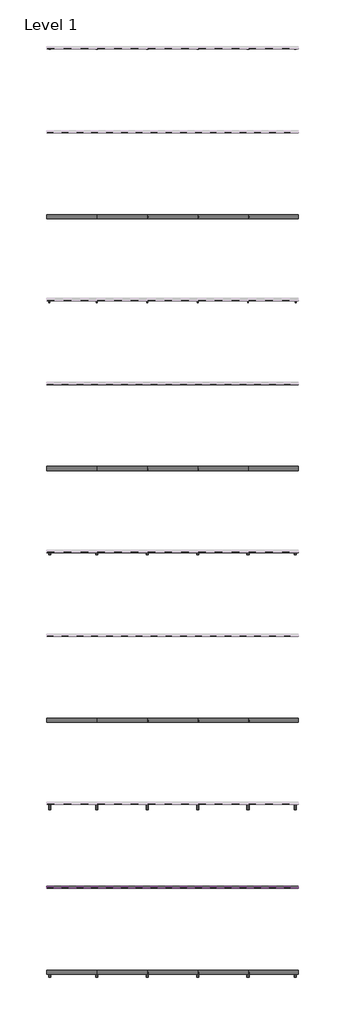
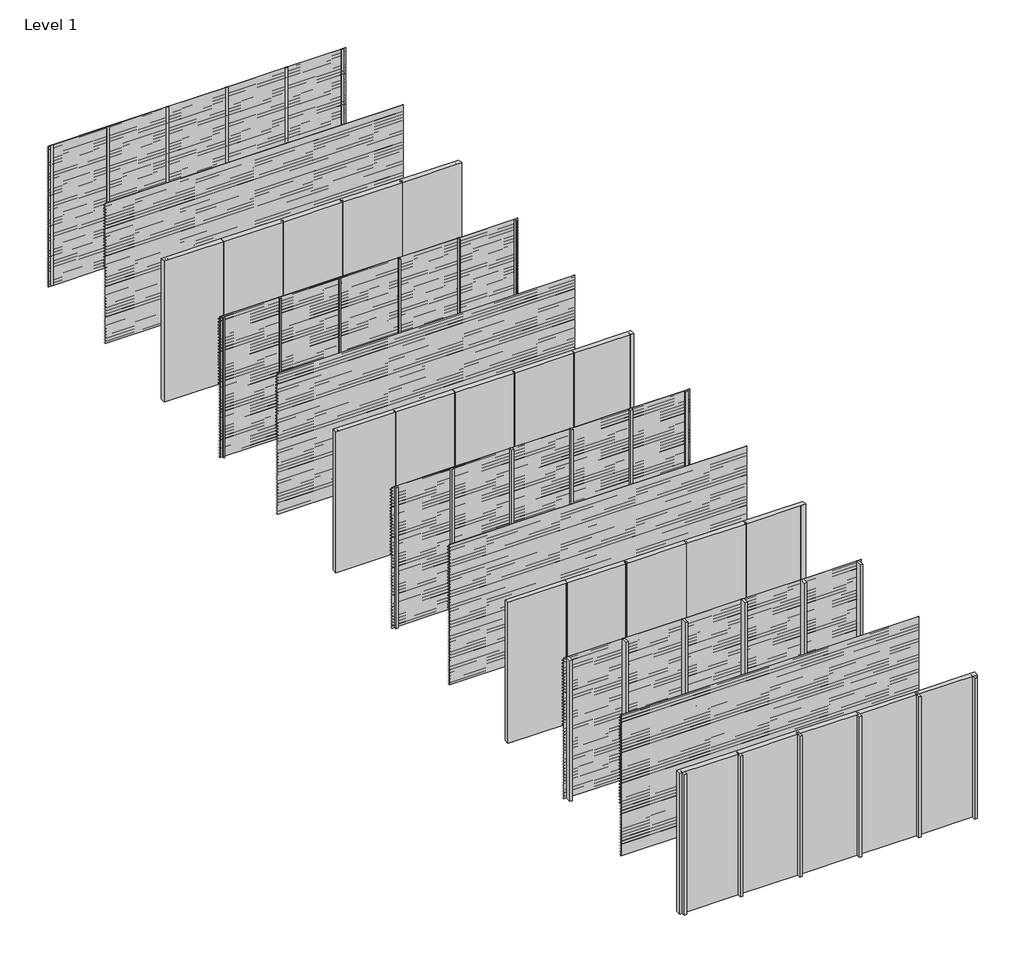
# One storey, part 1 of 12: 48 members, 44 plates, 29 proxies.
"""IFC4 building model written with IfcOpenShell, lengths in millimetres."""

from ifc_helpers import new_model, si_unit, frame, origin, origin_with_axes, place, context, project, spatial, polyline, outline, extrude, transform, mapped, element, save
from components import rectangular_mullion_bbbcbd30, rectangular_mullion_f8d4a220, rectangular_mullion_81aaf6fe, rectangular_mullion_6e08dc26, rectangular_mullion_75c52e10, rectangular_mullion_40295cf1, rectangular_mullion_7f158cb3, rectangular_mullion_66519e13, rectangular_mullion_5829b51c, rectangular_mullion_3b5b8a15, rectangular_mullion_81543344, rectangular_mullion_041a21c4, empty_system_panel_empty_50a928b3, empty_system_panel_empty_6b1ffbf5

model = new_model("IFC4")

# Units and contexts
model_context = context("Model", 3, world=origin())
ifc_project = project(units=[si_unit("LENGTHUNIT", "METRE", prefix="MILLI")], contexts=[model_context])

# Site, building, storey
site = spatial("IfcSite", under=ifc_project)
building = spatial("IfcBuilding", under=site)
storey = spatial("IfcBuildingStorey", under=building, Name="Level 1", Elevation=0.0)

# Proxies
placement = place(None, origin())
element("IfcBuildingElementProxy", 1, Name="Wall Sweeps", at=placement, inside=storey, context=model_context, shape_type="SweptSolid", body=[
    extrude(outline(polyline([(-19995.0, 2990.0), (-19995.0, 2980.7409854), (-19946.0, 2930.0), (-19946.0, 2914.0), (-19997.0, 2966.812046), (-19997.0, 2990.0), (-19995.0, 2990.0)])), frame((0.0, 0.0, 0.0), z_axis=(1.0, 0.0, 0.0), x_axis=(0.0, 1.0, 0.0)), (0.0, 0.0, 1.0), 6000.0),
])
element("IfcBuildingElementProxy", 2, Name="Wall Sweeps", at=placement, inside=storey, context=model_context, shape_type="SweptSolid", body=[
    extrude(outline(polyline([(-19995.0, 2925.0), (-19995.0, 2915.7409854), (-19946.0, 2865.0), (-19946.0, 2849.0), (-19997.0, 2901.812046), (-19997.0, 2925.0), (-19995.0, 2925.0)])), frame((0.0, 0.0, 0.0), z_axis=(1.0, 0.0, 0.0), x_axis=(0.0, 1.0, 0.0)), (0.0, 0.0, 1.0), 6000.0),
])
element("IfcBuildingElementProxy", 3, Name="Wall Sweeps", at=placement, inside=storey, context=model_context, shape_type="SweptSolid", body=[
    extrude(outline(polyline([(-19995.0, 2860.0), (-19995.0, 2850.7409854), (-19946.0, 2800.0), (-19946.0, 2784.0), (-19997.0, 2836.812046), (-19997.0, 2860.0), (-19995.0, 2860.0)])), frame((0.0, 0.0, 0.0), z_axis=(1.0, 0.0, 0.0), x_axis=(0.0, 1.0, 0.0)), (0.0, 0.0, 1.0), 6000.0),
])
element("IfcBuildingElementProxy", 4, Name="Wall Sweeps", at=placement, inside=storey, context=model_context, shape_type="SweptSolid", body=[
    extrude(outline(polyline([(-19995.0, 2795.0), (-19995.0, 2785.7409854), (-19946.0, 2735.0), (-19946.0, 2719.0), (-19997.0, 2771.812046), (-19997.0, 2795.0), (-19995.0, 2795.0)])), frame((0.0, 0.0, 0.0), z_axis=(1.0, 0.0, 0.0), x_axis=(0.0, 1.0, 0.0)), (0.0, 0.0, 1.0), 6000.0),
])
element("IfcBuildingElementProxy", 5, Name="Wall Sweeps", at=placement, inside=storey, context=model_context, shape_type="SweptSolid", body=[
    extrude(outline(polyline([(-19995.0, 2730.0), (-19995.0, 2720.7409854), (-19946.0, 2670.0), (-19946.0, 2654.0), (-19997.0, 2706.812046), (-19997.0, 2730.0), (-19995.0, 2730.0)])), frame((0.0, 0.0, 0.0), z_axis=(1.0, 0.0, 0.0), x_axis=(0.0, 1.0, 0.0)), (0.0, 0.0, 1.0), 6000.0),
])
element("IfcBuildingElementProxy", 6, Name="Wall Sweeps", at=placement, inside=storey, context=model_context, shape_type="SweptSolid", body=[
    extrude(outline(polyline([(-19995.0, 2665.0), (-19995.0, 2655.7409854), (-19946.0, 2605.0), (-19946.0, 2589.0), (-19997.0, 2641.812046), (-19997.0, 2665.0), (-19995.0, 2665.0)])), frame((0.0, 0.0, 0.0), z_axis=(1.0, 0.0, 0.0), x_axis=(0.0, 1.0, 0.0)), (0.0, 0.0, 1.0), 6000.0),
])
element("IfcBuildingElementProxy", 7, Name="Wall Sweeps", at=placement, inside=storey, context=model_context, shape_type="SweptSolid", body=[
    extrude(outline(polyline([(-19995.0, 2600.0), (-19995.0, 2590.7409854), (-19946.0, 2540.0), (-19946.0, 2524.0), (-19997.0, 2576.812046), (-19997.0, 2600.0), (-19995.0, 2600.0)])), frame((0.0, 0.0, 0.0), z_axis=(1.0, 0.0, 0.0), x_axis=(0.0, 1.0, 0.0)), (0.0, 0.0, 1.0), 6000.0),
])
element("IfcBuildingElementProxy", 8, Name="Wall Sweeps", at=placement, inside=storey, context=model_context, shape_type="SweptSolid", body=[
    extrude(outline(polyline([(-19995.0, 2535.0), (-19995.0, 2525.7409854), (-19946.0, 2475.0), (-19946.0, 2459.0), (-19997.0, 2511.812046), (-19997.0, 2535.0), (-19995.0, 2535.0)])), frame((0.0, 0.0, 0.0), z_axis=(1.0, 0.0, 0.0), x_axis=(0.0, 1.0, 0.0)), (0.0, 0.0, 1.0), 6000.0),
])
element("IfcBuildingElementProxy", 9, Name="Wall Sweeps", at=placement, inside=storey, context=model_context, shape_type="SweptSolid", body=[
    extrude(outline(polyline([(-19995.0, 2470.0), (-19995.0, 2460.7409854), (-19946.0, 2410.0), (-19946.0, 2394.0), (-19997.0, 2446.812046), (-19997.0, 2470.0), (-19995.0, 2470.0)])), frame((0.0, 0.0, 0.0), z_axis=(1.0, 0.0, 0.0), x_axis=(0.0, 1.0, 0.0)), (0.0, 0.0, 1.0), 6000.0),
])
element("IfcBuildingElementProxy", 10, Name="Wall Sweeps", at=placement, inside=storey, context=model_context, shape_type="SweptSolid", body=[
    extrude(outline(polyline([(-19995.0, 2405.0), (-19995.0, 2395.7409854), (-19946.0, 2345.0), (-19946.0, 2329.0), (-19997.0, 2381.812046), (-19997.0, 2405.0), (-19995.0, 2405.0)])), frame((0.0, 0.0, 0.0), z_axis=(1.0, 0.0, 0.0), x_axis=(0.0, 1.0, 0.0)), (0.0, 0.0, 1.0), 6000.0),
])
element("IfcBuildingElementProxy", 11, Name="Wall Sweeps", at=placement, inside=storey, context=model_context, shape_type="SweptSolid", body=[
    extrude(outline(polyline([(-19995.0, 2340.0), (-19995.0, 2330.7409854), (-19946.0, 2280.0), (-19946.0, 2264.0), (-19997.0, 2316.812046), (-19997.0, 2340.0), (-19995.0, 2340.0)])), frame((0.0, 0.0, 0.0), z_axis=(1.0, 0.0, 0.0), x_axis=(0.0, 1.0, 0.0)), (0.0, 0.0, 1.0), 6000.0),
])
element("IfcBuildingElementProxy", 12, Name="Wall Sweeps", at=placement, inside=storey, context=model_context, shape_type="SweptSolid", body=[
    extrude(outline(polyline([(-19995.0, 2275.0), (-19995.0, 2265.7409854), (-19946.0, 2215.0), (-19946.0, 2199.0), (-19997.0, 2251.812046), (-19997.0, 2275.0), (-19995.0, 2275.0)])), frame((0.0, 0.0, 0.0), z_axis=(1.0, 0.0, 0.0), x_axis=(0.0, 1.0, 0.0)), (0.0, 0.0, 1.0), 6000.0),
])
element("IfcBuildingElementProxy", 13, Name="Wall Sweeps", at=placement, inside=storey, context=model_context, shape_type="SweptSolid", body=[
    extrude(outline(polyline([(-19995.0, 2210.0), (-19995.0, 2200.7409854), (-19946.0, 2150.0), (-19946.0, 2134.0), (-19997.0, 2186.812046), (-19997.0, 2210.0), (-19995.0, 2210.0)])), frame((0.0, 0.0, 0.0), z_axis=(1.0, 0.0, 0.0), x_axis=(0.0, 1.0, 0.0)), (0.0, 0.0, 1.0), 6000.0),
])
element("IfcBuildingElementProxy", 14, Name="Wall Sweeps", at=placement, inside=storey, context=model_context, shape_type="SweptSolid", body=[
    extrude(outline(polyline([(-19995.0, 2145.0), (-19995.0, 2135.7409854), (-19946.0, 2085.0), (-19946.0, 2069.0), (-19997.0, 2121.812046), (-19997.0, 2145.0), (-19995.0, 2145.0)])), frame((0.0, 0.0, 0.0), z_axis=(1.0, 0.0, 0.0), x_axis=(0.0, 1.0, 0.0)), (0.0, 0.0, 1.0), 6000.0),
])
element("IfcBuildingElementProxy", 15, Name="Wall Sweeps", at=placement, inside=storey, context=model_context, shape_type="SweptSolid", body=[
    extrude(outline(polyline([(-19995.0, 2080.0), (-19995.0, 2070.7409854), (-19946.0, 2020.0), (-19946.0, 2004.0), (-19997.0, 2056.812046), (-19997.0, 2080.0), (-19995.0, 2080.0)])), frame((0.0, 0.0, 0.0), z_axis=(1.0, 0.0, 0.0), x_axis=(0.0, 1.0, 0.0)), (0.0, 0.0, 1.0), 6000.0),
])
element("IfcBuildingElementProxy", 16, Name="Wall Sweeps", at=placement, inside=storey, context=model_context, shape_type="SweptSolid", body=[
    extrude(outline(polyline([(-19995.0, 2015.0), (-19995.0, 2005.7409854), (-19946.0, 1955.0), (-19946.0, 1939.0), (-19997.0, 1991.812046), (-19997.0, 2015.0), (-19995.0, 2015.0)])), frame((0.0, 0.0, 0.0), z_axis=(1.0, 0.0, 0.0), x_axis=(0.0, 1.0, 0.0)), (0.0, 0.0, 1.0), 6000.0),
])
element("IfcBuildingElementProxy", 17, Name="Wall Sweeps", at=placement, inside=storey, context=model_context, shape_type="SweptSolid", body=[
    extrude(outline(polyline([(-19995.0, 1950.0), (-19995.0, 1940.7409854), (-19946.0, 1890.0), (-19946.0, 1874.0), (-19997.0, 1926.812046), (-19997.0, 1950.0), (-19995.0, 1950.0)])), frame((0.0, 0.0, 0.0), z_axis=(1.0, 0.0, 0.0), x_axis=(0.0, 1.0, 0.0)), (0.0, 0.0, 1.0), 6000.0),
])
element("IfcBuildingElementProxy", 18, Name="Wall Sweeps", at=placement, inside=storey, context=model_context, shape_type="SweptSolid", body=[
    extrude(outline(polyline([(-19995.0, 1885.0), (-19995.0, 1875.7409854), (-19946.0, 1825.0), (-19946.0, 1809.0), (-19997.0, 1861.812046), (-19997.0, 1885.0), (-19995.0, 1885.0)])), frame((0.0, 0.0, 0.0), z_axis=(1.0, 0.0, 0.0), x_axis=(0.0, 1.0, 0.0)), (0.0, 0.0, 1.0), 6000.0),
])
element("IfcBuildingElementProxy", 19, Name="Wall Sweeps", at=placement, inside=storey, context=model_context, shape_type="SweptSolid", body=[
    extrude(outline(polyline([(-19995.0, 1820.0), (-19995.0, 1810.7409854), (-19946.0, 1760.0), (-19946.0, 1744.0), (-19997.0, 1796.812046), (-19997.0, 1820.0), (-19995.0, 1820.0)])), frame((0.0, 0.0, 0.0), z_axis=(1.0, 0.0, 0.0), x_axis=(0.0, 1.0, 0.0)), (0.0, 0.0, 1.0), 6000.0),
])
element("IfcBuildingElementProxy", 20, Name="Wall Sweeps", at=placement, inside=storey, context=model_context, shape_type="SweptSolid", body=[
    extrude(outline(polyline([(-19995.0, 1755.0), (-19995.0, 1745.7409854), (-19946.0, 1695.0), (-19946.0, 1679.0), (-19997.0, 1731.812046), (-19997.0, 1755.0), (-19995.0, 1755.0)])), frame((0.0, 0.0, 0.0), z_axis=(1.0, 0.0, 0.0), x_axis=(0.0, 1.0, 0.0)), (0.0, 0.0, 1.0), 6000.0),
])
element("IfcBuildingElementProxy", 21, Name="Wall Sweeps", at=placement, inside=storey, context=model_context, shape_type="SweptSolid", body=[
    extrude(outline(polyline([(-19995.0, 1690.0), (-19995.0, 1680.7409854), (-19946.0, 1630.0), (-19946.0, 1614.0), (-19997.0, 1666.812046), (-19997.0, 1690.0), (-19995.0, 1690.0)])), frame((0.0, 0.0, 0.0), z_axis=(1.0, 0.0, 0.0), x_axis=(0.0, 1.0, 0.0)), (0.0, 0.0, 1.0), 6000.0),
])
element("IfcBuildingElementProxy", 22, Name="Wall Sweeps", at=placement, inside=storey, context=model_context, shape_type="SweptSolid", body=[
    extrude(outline(polyline([(-19995.0, 1625.0), (-19995.0, 1615.7409854), (-19946.0, 1565.0), (-19946.0, 1549.0), (-19997.0, 1601.812046), (-19997.0, 1625.0), (-19995.0, 1625.0)])), frame((0.0, 0.0, 0.0), z_axis=(1.0, 0.0, 0.0), x_axis=(0.0, 1.0, 0.0)), (0.0, 0.0, 1.0), 6000.0),
])
element("IfcBuildingElementProxy", 23, Name="Wall Sweeps", at=placement, inside=storey, context=model_context, shape_type="SweptSolid", body=[
    extrude(outline(polyline([(-19995.0, 1560.0), (-19995.0, 1550.7409854), (-19946.0, 1500.0), (-19946.0, 1484.0), (-19997.0, 1536.812046), (-19997.0, 1560.0), (-19995.0, 1560.0)])), frame((0.0, 0.0, 0.0), z_axis=(1.0, 0.0, 0.0), x_axis=(0.0, 1.0, 0.0)), (0.0, 0.0, 1.0), 6000.0),
])
element("IfcBuildingElementProxy", 24, Name="Wall Sweeps", at=placement, inside=storey, context=model_context, shape_type="SweptSolid", body=[
    extrude(outline(polyline([(-19995.0, 1495.0), (-19995.0, 1485.7409854), (-19946.0, 1435.0), (-19946.0, 1419.0), (-19997.0, 1471.812046), (-19997.0, 1495.0), (-19995.0, 1495.0)])), frame((0.0, 0.0, 0.0), z_axis=(1.0, 0.0, 0.0), x_axis=(0.0, 1.0, 0.0)), (0.0, 0.0, 1.0), 6000.0),
])
element("IfcBuildingElementProxy", 25, Name="Wall Sweeps", at=placement, inside=storey, context=model_context, shape_type="SweptSolid", body=[
    extrude(outline(polyline([(-19995.0, 1430.0), (-19995.0, 1420.7409854), (-19946.0, 1370.0), (-19946.0, 1354.0), (-19997.0, 1406.812046), (-19997.0, 1430.0), (-19995.0, 1430.0)])), frame((0.0, 0.0, 0.0), z_axis=(1.0, 0.0, 0.0), x_axis=(0.0, 1.0, 0.0)), (0.0, 0.0, 1.0), 6000.0),
])
element("IfcBuildingElementProxy", 26, Name="Wall Sweeps", at=placement, inside=storey, context=model_context, shape_type="SweptSolid", body=[
    extrude(outline(polyline([(-19995.0, 1365.0), (-19995.0, 1355.7409854), (-19946.0, 1305.0), (-19946.0, 1289.0), (-19997.0, 1341.812046), (-19997.0, 1365.0), (-19995.0, 1365.0)])), frame((0.0, 0.0, 0.0), z_axis=(1.0, 0.0, 0.0), x_axis=(0.0, 1.0, 0.0)), (0.0, 0.0, 1.0), 6000.0),
])
element("IfcBuildingElementProxy", 27, Name="Wall Sweeps", at=placement, inside=storey, context=model_context, shape_type="SweptSolid", body=[
    extrude(outline(polyline([(-19995.0, 1300.0), (-19995.0, 1290.7409854), (-19946.0, 1240.0), (-19946.0, 1224.0), (-19997.0, 1276.812046), (-19997.0, 1300.0), (-19995.0, 1300.0)])), frame((0.0, 0.0, 0.0), z_axis=(1.0, 0.0, 0.0), x_axis=(0.0, 1.0, 0.0)), (0.0, 0.0, 1.0), 6000.0),
])
element("IfcBuildingElementProxy", 28, Name="Wall Sweeps", at=placement, inside=storey, context=model_context, shape_type="SweptSolid", body=[
    extrude(outline(polyline([(-19995.0, 1235.0), (-19995.0, 1225.7409854), (-19946.0, 1175.0), (-19946.0, 1159.0), (-19997.0, 1211.812046), (-19997.0, 1235.0), (-19995.0, 1235.0)])), frame((0.0, 0.0, 0.0), z_axis=(1.0, 0.0, 0.0), x_axis=(0.0, 1.0, 0.0)), (0.0, 0.0, 1.0), 6000.0),
])
element("IfcBuildingElementProxy", 29, Name="Wall Sweeps", at=placement, inside=storey, context=model_context, shape_type="SweptSolid", body=[
    extrude(outline(polyline([(-19995.0, 1170.0), (-19995.0, 1160.7409854), (-19946.0, 1110.0), (-19946.0, 1094.0), (-19997.0, 1146.812046), (-19997.0, 1170.0), (-19995.0, 1170.0)])), frame((0.0, 0.0, 0.0), z_axis=(1.0, 0.0, 0.0), x_axis=(0.0, 1.0, 0.0)), (0.0, 0.0, 1.0), 6000.0),
])

# Members
rectangular_mullion_shape = rectangular_mullion_bbbcbd30(model_context)
element("IfcMember", 30, ObjectType="Rectangular Mullion : RSen_21_CWM_support profile - 50x12 - left_gen_duco projects", at=placement, inside=storey, context=model_context, shape_type="MappedRepresentation", body=[
    mapped(rectangular_mullion_shape, transform((0.0, 0.0, 0.0), x_axis=(-1.0, 0.0, 0.0), y_axis=(0.0, 1.0, 0.0), z_axis=(0.0, 0.0, -1.0))),
])
element("IfcMember", 31, ObjectType="Rectangular Mullion : RSen_21_CWM_support profile - 50x12 - left_gen_duco projects", at=placement, inside=storey, context=model_context, shape_type="MappedRepresentation", body=[
    mapped(rectangular_mullion_shape, transform((0.0, -4000.0, 0.0), x_axis=(-1.0, 0.0, 0.0), y_axis=(0.0, 1.0, 0.0), z_axis=(0.0, 0.0, -1.0))),
])
rectangular_mullion_2_shape = rectangular_mullion_f8d4a220(model_context)
element("IfcMember", 32, ObjectType="Rectangular Mullion : RSen_21_CWM_support profile - 50x12 - right_gen_duco projects", at=placement, inside=storey, context=model_context, shape_type="MappedRepresentation", body=[
    mapped(rectangular_mullion_2_shape, transform((6000.0, 0.0, 3000.0), x_axis=(1.0, 0.0, 0.0), y_axis=(0.0, 1.0, 0.0), z_axis=(0.0, 0.0, 1.0))),
])
element("IfcMember", 33, ObjectType="Rectangular Mullion : RSen_21_CWM_support profile - 50x12 - right_gen_duco projects", at=placement, inside=storey, context=model_context, shape_type="MappedRepresentation", body=[
    mapped(rectangular_mullion_2_shape, transform((6000.0, -4000.0, 3000.0), x_axis=(1.0, 0.0, 0.0), y_axis=(0.0, 1.0, 0.0), z_axis=(0.0, 0.0, 1.0))),
])
rectangular_mullion_3_shape = rectangular_mullion_81aaf6fe(model_context)
element("IfcMember", 34, ObjectType="Rectangular Mullion : RSen_21_CWM_support profile - 21x50 Multi - left_gen_duco projects", at=placement, inside=storey, context=model_context, shape_type="MappedRepresentation", body=[
    mapped(rectangular_mullion_3_shape, transform((0.0, -6000.0, 0.0), x_axis=(-1.0, 0.0, 0.0), y_axis=(0.0, 1.0, 0.0), z_axis=(0.0, 0.0, -1.0))),
])
element("IfcMember", 35, ObjectType="Rectangular Mullion : RSen_21_CWM_support profile - 21x50 Multi - left_gen_duco projects", at=placement, inside=storey, context=model_context, shape_type="MappedRepresentation", body=[
    mapped(rectangular_mullion_3_shape, transform((0.0, -10000.0, 0.0), x_axis=(-1.0, 0.0, 0.0), y_axis=(0.0, 1.0, 0.0), z_axis=(0.0, 0.0, -1.0))),
])
rectangular_mullion_4_shape = rectangular_mullion_6e08dc26(model_context)
element("IfcMember", 36, ObjectType="Rectangular Mullion : RSen_21_CWM_support profile - 21x50 Multi - right_gen_duco projects", at=placement, inside=storey, context=model_context, shape_type="MappedRepresentation", body=[
    mapped(rectangular_mullion_4_shape, transform((6000.0, -6000.0, 3000.0), x_axis=(1.0, 0.0, 0.0), y_axis=(0.0, 1.0, 0.0), z_axis=(0.0, 0.0, 1.0))),
])
element("IfcMember", 37, ObjectType="Rectangular Mullion : RSen_21_CWM_support profile - 21x50 Multi - right_gen_duco projects", at=placement, inside=storey, context=model_context, shape_type="MappedRepresentation", body=[
    mapped(rectangular_mullion_4_shape, transform((6000.0, -10000.0, 3000.0), x_axis=(1.0, 0.0, 0.0), y_axis=(0.0, 1.0, 0.0), z_axis=(0.0, 0.0, 1.0))),
])
rectangular_mullion_5_shape = rectangular_mullion_75c52e10(model_context)
element("IfcMember", 38, ObjectType="Rectangular Mullion : RSen_21_CWM_support profile - 50x50 - left_gen_duco projects", at=placement, inside=storey, context=model_context, shape_type="MappedRepresentation", body=[
    mapped(rectangular_mullion_5_shape, transform((0.0, -12000.0, 0.0), x_axis=(-1.0, 0.0, 0.0), y_axis=(0.0, 1.0, 0.0), z_axis=(0.0, 0.0, -1.0))),
])
element("IfcMember", 39, ObjectType="Rectangular Mullion : RSen_21_CWM_support profile - 50x50 - left_gen_duco projects", at=placement, inside=storey, context=model_context, shape_type="MappedRepresentation", body=[
    mapped(rectangular_mullion_5_shape, transform((0.0, -16000.0, 0.0), x_axis=(-1.0, 0.0, 0.0), y_axis=(0.0, 1.0, 0.0), z_axis=(0.0, 0.0, -1.0))),
])
rectangular_mullion_6_shape = rectangular_mullion_40295cf1(model_context)
element("IfcMember", 40, ObjectType="Rectangular Mullion : RSen_21_CWM_support profile - 50x50 - right_gen_duco projects", at=placement, inside=storey, context=model_context, shape_type="MappedRepresentation", body=[
    mapped(rectangular_mullion_6_shape, transform((6000.0, -12000.0, 3000.0), x_axis=(1.0, 0.0, 0.0), y_axis=(0.0, 1.0, 0.0), z_axis=(0.0, 0.0, 1.0))),
])
element("IfcMember", 41, ObjectType="Rectangular Mullion : RSen_21_CWM_support profile - 50x50 - right_gen_duco projects", at=placement, inside=storey, context=model_context, shape_type="MappedRepresentation", body=[
    mapped(rectangular_mullion_6_shape, transform((6000.0, -16000.0, 3000.0), x_axis=(1.0, 0.0, 0.0), y_axis=(0.0, 1.0, 0.0), z_axis=(0.0, 0.0, 1.0))),
])
rectangular_mullion_7_shape = rectangular_mullion_7f158cb3(model_context)
element("IfcMember", 42, ObjectType="Rectangular Mullion : RSen_21_CWM_support profile - 50x12_gen_duco projects", at=placement, inside=storey, context=model_context, shape_type="MappedRepresentation", body=[
    mapped(rectangular_mullion_7_shape, transform((4800.0, 0.0, 0.0), x_axis=(-1.0, 0.0, 0.0), y_axis=(0.0, 1.0, 0.0), z_axis=(0.0, 0.0, -1.0))),
])
element("IfcMember", 43, ObjectType="Rectangular Mullion : RSen_21_CWM_support profile - 50x12_gen_duco projects", at=placement, inside=storey, context=model_context, shape_type="MappedRepresentation", body=[
    mapped(rectangular_mullion_7_shape, transform((3600.0, 0.0, 0.0), x_axis=(-1.0, 0.0, 0.0), y_axis=(0.0, 1.0, 0.0), z_axis=(0.0, 0.0, -1.0))),
])
element("IfcMember", 44, ObjectType="Rectangular Mullion : RSen_21_CWM_support profile - 50x12_gen_duco projects", at=placement, inside=storey, context=model_context, shape_type="MappedRepresentation", body=[
    mapped(rectangular_mullion_7_shape, transform((2400.0, 0.0, 0.0), x_axis=(-1.0, 0.0, 0.0), y_axis=(0.0, 1.0, 0.0), z_axis=(0.0, 0.0, -1.0))),
])
element("IfcMember", 45, ObjectType="Rectangular Mullion : RSen_21_CWM_support profile - 50x12_gen_duco projects", at=placement, inside=storey, context=model_context, shape_type="MappedRepresentation", body=[
    mapped(rectangular_mullion_7_shape, transform((1200.0, 0.0, 0.0), x_axis=(-1.0, 0.0, 0.0), y_axis=(0.0, 1.0, 0.0), z_axis=(0.0, 0.0, -1.0))),
])
element("IfcMember", 46, ObjectType="Rectangular Mullion : RSen_21_CWM_support profile - 50x12_gen_duco projects", at=placement, inside=storey, context=model_context, shape_type="MappedRepresentation", body=[
    mapped(rectangular_mullion_7_shape, transform((4800.0, -4000.0, 0.0), x_axis=(-1.0, 0.0, 0.0), y_axis=(0.0, 1.0, 0.0), z_axis=(0.0, 0.0, -1.0))),
])
element("IfcMember", 47, ObjectType="Rectangular Mullion : RSen_21_CWM_support profile - 50x12_gen_duco projects", at=placement, inside=storey, context=model_context, shape_type="MappedRepresentation", body=[
    mapped(rectangular_mullion_7_shape, transform((3600.0, -4000.0, 0.0), x_axis=(-1.0, 0.0, 0.0), y_axis=(0.0, 1.0, 0.0), z_axis=(0.0, 0.0, -1.0))),
])
element("IfcMember", 48, ObjectType="Rectangular Mullion : RSen_21_CWM_support profile - 50x12_gen_duco projects", at=placement, inside=storey, context=model_context, shape_type="MappedRepresentation", body=[
    mapped(rectangular_mullion_7_shape, transform((2400.0, -4000.0, 0.0), x_axis=(-1.0, 0.0, 0.0), y_axis=(0.0, 1.0, 0.0), z_axis=(0.0, 0.0, -1.0))),
])
element("IfcMember", 49, ObjectType="Rectangular Mullion : RSen_21_CWM_support profile - 50x12_gen_duco projects", at=placement, inside=storey, context=model_context, shape_type="MappedRepresentation", body=[
    mapped(rectangular_mullion_7_shape, transform((1200.0, -4000.0, 0.0), x_axis=(-1.0, 0.0, 0.0), y_axis=(0.0, 1.0, 0.0), z_axis=(0.0, 0.0, -1.0))),
])
rectangular_mullion_8_shape = rectangular_mullion_66519e13(model_context)
element("IfcMember", 50, ObjectType="Rectangular Mullion : RSen_21_CWM_support profile - 21x50 Multi_gen_duco projects", at=placement, inside=storey, context=model_context, shape_type="MappedRepresentation", body=[
    mapped(rectangular_mullion_8_shape, transform((4800.0, -6000.0, 0.0), x_axis=(-1.0, 0.0, 0.0), y_axis=(0.0, 1.0, 0.0), z_axis=(0.0, 0.0, -1.0))),
])
element("IfcMember", 51, ObjectType="Rectangular Mullion : RSen_21_CWM_support profile - 21x50 Multi_gen_duco projects", at=placement, inside=storey, context=model_context, shape_type="MappedRepresentation", body=[
    mapped(rectangular_mullion_8_shape, transform((3600.0, -6000.0, 0.0), x_axis=(-1.0, 0.0, 0.0), y_axis=(0.0, 1.0, 0.0), z_axis=(0.0, 0.0, -1.0))),
])
element("IfcMember", 52, ObjectType="Rectangular Mullion : RSen_21_CWM_support profile - 21x50 Multi_gen_duco projects", at=placement, inside=storey, context=model_context, shape_type="MappedRepresentation", body=[
    mapped(rectangular_mullion_8_shape, transform((2400.0, -6000.0, 0.0), x_axis=(-1.0, 0.0, 0.0), y_axis=(0.0, 1.0, 0.0), z_axis=(0.0, 0.0, -1.0))),
])
element("IfcMember", 53, ObjectType="Rectangular Mullion : RSen_21_CWM_support profile - 21x50 Multi_gen_duco projects", at=placement, inside=storey, context=model_context, shape_type="MappedRepresentation", body=[
    mapped(rectangular_mullion_8_shape, transform((1200.0, -6000.0, 0.0), x_axis=(-1.0, 0.0, 0.0), y_axis=(0.0, 1.0, 0.0), z_axis=(0.0, 0.0, -1.0))),
])
element("IfcMember", 54, ObjectType="Rectangular Mullion : RSen_21_CWM_support profile - 21x50 Multi_gen_duco projects", at=placement, inside=storey, context=model_context, shape_type="MappedRepresentation", body=[
    mapped(rectangular_mullion_8_shape, transform((4800.0, -10000.0, 0.0), x_axis=(-1.0, 0.0, 0.0), y_axis=(0.0, 1.0, 0.0), z_axis=(0.0, 0.0, -1.0))),
])
element("IfcMember", 55, ObjectType="Rectangular Mullion : RSen_21_CWM_support profile - 21x50 Multi_gen_duco projects", at=placement, inside=storey, context=model_context, shape_type="MappedRepresentation", body=[
    mapped(rectangular_mullion_8_shape, transform((3600.0, -10000.0, 0.0), x_axis=(-1.0, 0.0, 0.0), y_axis=(0.0, 1.0, 0.0), z_axis=(0.0, 0.0, -1.0))),
])
element("IfcMember", 56, ObjectType="Rectangular Mullion : RSen_21_CWM_support profile - 21x50 Multi_gen_duco projects", at=placement, inside=storey, context=model_context, shape_type="MappedRepresentation", body=[
    mapped(rectangular_mullion_8_shape, transform((2400.0, -10000.0, 0.0), x_axis=(-1.0, 0.0, 0.0), y_axis=(0.0, 1.0, 0.0), z_axis=(0.0, 0.0, -1.0))),
])
element("IfcMember", 57, ObjectType="Rectangular Mullion : RSen_21_CWM_support profile - 21x50 Multi_gen_duco projects", at=placement, inside=storey, context=model_context, shape_type="MappedRepresentation", body=[
    mapped(rectangular_mullion_8_shape, transform((1200.0, -10000.0, 0.0), x_axis=(-1.0, 0.0, 0.0), y_axis=(0.0, 1.0, 0.0), z_axis=(0.0, 0.0, -1.0))),
])
rectangular_mullion_9_shape = rectangular_mullion_5829b51c(model_context)
element("IfcMember", 58, ObjectType="Rectangular Mullion : RSen_21_CWM_support profile - 50x50_gen_duco projects", at=placement, inside=storey, context=model_context, shape_type="MappedRepresentation", body=[
    mapped(rectangular_mullion_9_shape, transform((4800.0, -12000.0, 0.0), x_axis=(-1.0, 0.0, 0.0), y_axis=(0.0, 1.0, 0.0), z_axis=(0.0, 0.0, -1.0))),
])
element("IfcMember", 59, ObjectType="Rectangular Mullion : RSen_21_CWM_support profile - 50x50_gen_duco projects", at=placement, inside=storey, context=model_context, shape_type="MappedRepresentation", body=[
    mapped(rectangular_mullion_9_shape, transform((3600.0, -12000.0, 0.0), x_axis=(-1.0, 0.0, 0.0), y_axis=(0.0, 1.0, 0.0), z_axis=(0.0, 0.0, -1.0))),
])
element("IfcMember", 60, ObjectType="Rectangular Mullion : RSen_21_CWM_support profile - 50x50_gen_duco projects", at=placement, inside=storey, context=model_context, shape_type="MappedRepresentation", body=[
    mapped(rectangular_mullion_9_shape, transform((2400.0, -12000.0, 0.0), x_axis=(-1.0, 0.0, 0.0), y_axis=(0.0, 1.0, 0.0), z_axis=(0.0, 0.0, -1.0))),
])
element("IfcMember", 61, ObjectType="Rectangular Mullion : RSen_21_CWM_support profile - 50x50_gen_duco projects", at=placement, inside=storey, context=model_context, shape_type="MappedRepresentation", body=[
    mapped(rectangular_mullion_9_shape, transform((1200.0, -12000.0, 0.0), x_axis=(-1.0, 0.0, 0.0), y_axis=(0.0, 1.0, 0.0), z_axis=(0.0, 0.0, -1.0))),
])
element("IfcMember", 62, ObjectType="Rectangular Mullion : RSen_21_CWM_support profile - 50x50_gen_duco projects", at=placement, inside=storey, context=model_context, shape_type="MappedRepresentation", body=[
    mapped(rectangular_mullion_9_shape, transform((4800.0, -16000.0, 0.0), x_axis=(-1.0, 0.0, 0.0), y_axis=(0.0, 1.0, 0.0), z_axis=(0.0, 0.0, -1.0))),
])
element("IfcMember", 63, ObjectType="Rectangular Mullion : RSen_21_CWM_support profile - 50x50_gen_duco projects", at=placement, inside=storey, context=model_context, shape_type="MappedRepresentation", body=[
    mapped(rectangular_mullion_9_shape, transform((3600.0, -16000.0, 0.0), x_axis=(-1.0, 0.0, 0.0), y_axis=(0.0, 1.0, 0.0), z_axis=(0.0, 0.0, -1.0))),
])
element("IfcMember", 64, ObjectType="Rectangular Mullion : RSen_21_CWM_support profile - 50x50_gen_duco projects", at=placement, inside=storey, context=model_context, shape_type="MappedRepresentation", body=[
    mapped(rectangular_mullion_9_shape, transform((2400.0, -16000.0, 0.0), x_axis=(-1.0, 0.0, 0.0), y_axis=(0.0, 1.0, 0.0), z_axis=(0.0, 0.0, -1.0))),
])
element("IfcMember", 65, ObjectType="Rectangular Mullion : RSen_21_CWM_support profile - 50x50_gen_duco projects", at=placement, inside=storey, context=model_context, shape_type="MappedRepresentation", body=[
    mapped(rectangular_mullion_9_shape, transform((1200.0, -16000.0, 0.0), x_axis=(-1.0, 0.0, 0.0), y_axis=(0.0, 1.0, 0.0), z_axis=(0.0, 0.0, -1.0))),
])
rectangular_mullion_10_shape = rectangular_mullion_3b5b8a15(model_context)
element("IfcMember", 66, ObjectType="Rectangular Mullion : RSen_21_CWM_support profile - 50x125_gen_duco projects", at=placement, inside=storey, context=model_context, shape_type="MappedRepresentation", body=[
    mapped(rectangular_mullion_10_shape, transform((1200.0000002, -18000.0, 0.0), x_axis=(1.0, 0.0, 0.0), y_axis=(0.0, -1.0, 0.0), z_axis=(0.0, 0.0, -1.0))),
])
element("IfcMember", 67, ObjectType="Rectangular Mullion : RSen_21_CWM_support profile - 50x125_gen_duco projects", at=placement, inside=storey, context=model_context, shape_type="MappedRepresentation", body=[
    mapped(rectangular_mullion_10_shape, transform((2400.0000001, -18000.0, 0.0), x_axis=(1.0, 0.0, 0.0), y_axis=(0.0, -1.0, 0.0), z_axis=(0.0, 0.0, -1.0))),
])
element("IfcMember", 68, ObjectType="Rectangular Mullion : RSen_21_CWM_support profile - 50x125_gen_duco projects", at=placement, inside=storey, context=model_context, shape_type="MappedRepresentation", body=[
    mapped(rectangular_mullion_10_shape, transform((3599.9999999, -18000.0, 0.0), x_axis=(1.0, 0.0, 0.0), y_axis=(0.0, -1.0, 0.0), z_axis=(0.0, 0.0, -1.0))),
])
element("IfcMember", 69, ObjectType="Rectangular Mullion : RSen_21_CWM_support profile - 50x125_gen_duco projects", at=placement, inside=storey, context=model_context, shape_type="MappedRepresentation", body=[
    mapped(rectangular_mullion_10_shape, transform((4799.9999998, -18000.0, 0.0), x_axis=(1.0, 0.0, 0.0), y_axis=(0.0, -1.0, 0.0), z_axis=(0.0, 0.0, -1.0))),
])
element("IfcMember", 70, ObjectType="Rectangular Mullion : RSen_21_CWM_support profile - 50x125_gen_duco projects", at=placement, inside=storey, context=model_context, shape_type="MappedRepresentation", body=[
    mapped(rectangular_mullion_10_shape, transform((1200.0000002, -22000.0, 0.0), x_axis=(1.0, 0.0, 0.0), y_axis=(0.0, -1.0, 0.0), z_axis=(0.0, 0.0, -1.0))),
])
element("IfcMember", 71, ObjectType="Rectangular Mullion : RSen_21_CWM_support profile - 50x125_gen_duco projects", at=placement, inside=storey, context=model_context, shape_type="MappedRepresentation", body=[
    mapped(rectangular_mullion_10_shape, transform((2400.0000001, -22000.0, 0.0), x_axis=(1.0, 0.0, 0.0), y_axis=(0.0, -1.0, 0.0), z_axis=(0.0, 0.0, -1.0))),
])
element("IfcMember", 72, ObjectType="Rectangular Mullion : RSen_21_CWM_support profile - 50x125_gen_duco projects", at=placement, inside=storey, context=model_context, shape_type="MappedRepresentation", body=[
    mapped(rectangular_mullion_10_shape, transform((3599.9999999, -22000.0, 0.0), x_axis=(1.0, 0.0, 0.0), y_axis=(0.0, -1.0, 0.0), z_axis=(0.0, 0.0, -1.0))),
])
element("IfcMember", 73, ObjectType="Rectangular Mullion : RSen_21_CWM_support profile - 50x125_gen_duco projects", at=placement, inside=storey, context=model_context, shape_type="MappedRepresentation", body=[
    mapped(rectangular_mullion_10_shape, transform((4799.9999998, -22000.0, 0.0), x_axis=(1.0, 0.0, 0.0), y_axis=(0.0, -1.0, 0.0), z_axis=(0.0, 0.0, -1.0))),
])
rectangular_mullion_11_shape = rectangular_mullion_81543344(model_context)
element("IfcMember", 74, ObjectType="Rectangular Mullion : RSen_21_CWM_support profile - 50x125 - left_gen_duco projects", at=placement, inside=storey, context=model_context, shape_type="MappedRepresentation", body=[
    mapped(rectangular_mullion_11_shape, transform((6000.0, -18000.0, 0.0), x_axis=(1.0, 0.0, 0.0), y_axis=(0.0, -1.0, 0.0), z_axis=(0.0, 0.0, -1.0))),
])
element("IfcMember", 75, ObjectType="Rectangular Mullion : RSen_21_CWM_support profile - 50x125 - left_gen_duco projects", at=placement, inside=storey, context=model_context, shape_type="MappedRepresentation", body=[
    mapped(rectangular_mullion_11_shape, transform((6000.0, -22000.0, 0.0), x_axis=(1.0, 0.0, 0.0), y_axis=(0.0, -1.0, 0.0), z_axis=(0.0, 0.0, -1.0))),
])
rectangular_mullion_12_shape = rectangular_mullion_041a21c4(model_context)
element("IfcMember", 76, ObjectType="Rectangular Mullion : RSen_21_CWM_support profile - 50x125 - right_gen_duco projects", at=placement, inside=storey, context=model_context, shape_type="MappedRepresentation", body=[
    mapped(rectangular_mullion_12_shape, transform((0.0, -18000.0, 3000.0), x_axis=(-1.0, 0.0, 0.0), y_axis=(0.0, -1.0, 0.0), z_axis=(0.0, 0.0, 1.0))),
])
element("IfcMember", 77, ObjectType="Rectangular Mullion : RSen_21_CWM_support profile - 50x125 - right_gen_duco projects", at=placement, inside=storey, context=model_context, shape_type="MappedRepresentation", body=[
    mapped(rectangular_mullion_12_shape, transform((0.0, -22000.0, 3000.0), x_axis=(-1.0, 0.0, 0.0), y_axis=(0.0, -1.0, 0.0), z_axis=(0.0, 0.0, 1.0))),
])

# Plates
element("IfcPlate", 78, ObjectType="RSen_21_WA_louvre blade classic W 50S_gen_duco projects", at=placement, inside=storey, context=model_context, shape_type="SweptSolid", body=[
    extrude(outline(polyline([(0.0, 1.0), (1200.0, 1.0), (1200.0, -1.0), (0.0, -1.0), (0.0, 1.0)])), origin_with_axes(), (0.0, 0.0, 1.0), 3000.0),
])
element("IfcPlate", 79, ObjectType="RSen_21_WA_louvre blade classic W 50S_gen_duco projects", at=placement, inside=storey, context=model_context, shape_type="SweptSolid", body=[
    extrude(outline(polyline([(1200.0, 1.0), (2400.0, 1.0), (2400.0, -1.0), (1200.0, -1.0), (1200.0, 1.0)])), origin_with_axes(), (0.0, 0.0, 1.0), 3000.0),
])
element("IfcPlate", 80, ObjectType="RSen_21_WA_louvre blade classic W 50S_gen_duco projects", at=placement, inside=storey, context=model_context, shape_type="SweptSolid", body=[
    extrude(outline(polyline([(2400.0, 1.0), (3600.0, 1.0), (3600.0, -1.0), (2400.0, -1.0), (2400.0, 1.0)])), origin_with_axes(), (0.0, 0.0, 1.0), 3000.0),
])
element("IfcPlate", 81, ObjectType="RSen_21_WA_louvre blade classic W 50S_gen_duco projects", at=placement, inside=storey, context=model_context, shape_type="SweptSolid", body=[
    extrude(outline(polyline([(3600.0, 1.0), (4800.0, 1.0), (4800.0, -1.0), (3600.0, -1.0), (3600.0, 1.0)])), origin_with_axes(), (0.0, 0.0, 1.0), 3000.0),
])
element("IfcPlate", 82, ObjectType="RSen_21_WA_louvre blade classic W 50S_gen_duco projects", at=placement, inside=storey, context=model_context, shape_type="SweptSolid", body=[
    extrude(outline(polyline([(4800.0, 1.0), (6000.0, 1.0), (6000.0, -1.0), (4800.0, -1.0), (4800.0, 1.0)])), origin_with_axes(), (0.0, 0.0, 1.0), 3000.0),
])
element("IfcPlate", 83, ObjectType="RSen_21_WA_louvre blade classic W 50S_gen_duco projects", at=placement, inside=storey, context=model_context, shape_type="SweptSolid", body=[
    extrude(outline(polyline([(0.0, -1999.0), (6000.0, -1999.0), (6000.0, -2001.0), (0.0, -2001.0), (0.0, -1999.0)])), origin_with_axes(), (0.0, 0.0, 1.0), 3000.0),
])
element("IfcPlate", 84, ObjectType="RSen_21_WA_louvre blade classic W 50S_gen_duco projects", at=placement, inside=storey, context=model_context, shape_type="SweptSolid", body=[
    extrude(outline(polyline([(0.0, -5999.0), (1200.0, -5999.0), (1200.0, -6001.0), (0.0, -6001.0), (0.0, -5999.0)])), origin_with_axes(), (0.0, 0.0, 1.0), 3000.0),
])
element("IfcPlate", 85, ObjectType="RSen_21_WA_louvre blade classic W 50S_gen_duco projects", at=placement, inside=storey, context=model_context, shape_type="SweptSolid", body=[
    extrude(outline(polyline([(1200.0, -5999.0), (2400.0, -5999.0), (2400.0, -6001.0), (1200.0, -6001.0), (1200.0, -5999.0)])), origin_with_axes(), (0.0, 0.0, 1.0), 3000.0),
])
element("IfcPlate", 86, ObjectType="RSen_21_WA_louvre blade classic W 50S_gen_duco projects", at=placement, inside=storey, context=model_context, shape_type="SweptSolid", body=[
    extrude(outline(polyline([(2400.0, -5999.0), (3600.0, -5999.0), (3600.0, -6001.0), (2400.0, -6001.0), (2400.0, -5999.0)])), origin_with_axes(), (0.0, 0.0, 1.0), 3000.0),
])
element("IfcPlate", 87, ObjectType="RSen_21_WA_louvre blade classic W 50S_gen_duco projects", at=placement, inside=storey, context=model_context, shape_type="SweptSolid", body=[
    extrude(outline(polyline([(3600.0, -5999.0), (4800.0, -5999.0), (4800.0, -6001.0), (3600.0, -6001.0), (3600.0, -5999.0)])), origin_with_axes(), (0.0, 0.0, 1.0), 3000.0),
])
element("IfcPlate", 88, ObjectType="RSen_21_WA_louvre blade classic W 50S_gen_duco projects", at=placement, inside=storey, context=model_context, shape_type="SweptSolid", body=[
    extrude(outline(polyline([(4800.0, -5999.0), (6000.0, -5999.0), (6000.0, -6001.0), (4800.0, -6001.0), (4800.0, -5999.0)])), origin_with_axes(), (0.0, 0.0, 1.0), 3000.0),
])
element("IfcPlate", 89, ObjectType="RSen_21_WA_louvre blade classic W 50S_gen_duco projects", at=placement, inside=storey, context=model_context, shape_type="SweptSolid", body=[
    extrude(outline(polyline([(0.0, -7999.0), (6000.0, -7999.0), (6000.0, -8001.0), (0.0, -8001.0), (0.0, -7999.0)])), origin_with_axes(), (0.0, 0.0, 1.0), 3000.0),
])
element("IfcPlate", 90, ObjectType="RSen_21_WA_louvre blade classic W 50S_gen_duco projects", at=placement, inside=storey, context=model_context, shape_type="SweptSolid", body=[
    extrude(outline(polyline([(0.0, -11999.0), (1200.0, -11999.0), (1200.0, -12001.0), (0.0, -12001.0), (0.0, -11999.0)])), origin_with_axes(), (0.0, 0.0, 1.0), 3000.0),
])
element("IfcPlate", 91, ObjectType="RSen_21_WA_louvre blade classic W 50S_gen_duco projects", at=placement, inside=storey, context=model_context, shape_type="SweptSolid", body=[
    extrude(outline(polyline([(1200.0, -11999.0), (2400.0, -11999.0), (2400.0, -12001.0), (1200.0, -12001.0), (1200.0, -11999.0)])), origin_with_axes(), (0.0, 0.0, 1.0), 3000.0),
])
element("IfcPlate", 92, ObjectType="RSen_21_WA_louvre blade classic W 50S_gen_duco projects", at=placement, inside=storey, context=model_context, shape_type="SweptSolid", body=[
    extrude(outline(polyline([(2400.0, -11999.0), (3600.0, -11999.0), (3600.0, -12001.0), (2400.0, -12001.0), (2400.0, -11999.0)])), origin_with_axes(), (0.0, 0.0, 1.0), 3000.0),
])
element("IfcPlate", 93, ObjectType="RSen_21_WA_louvre blade classic W 50S_gen_duco projects", at=placement, inside=storey, context=model_context, shape_type="SweptSolid", body=[
    extrude(outline(polyline([(3600.0, -11999.0), (4800.0, -11999.0), (4800.0, -12001.0), (3600.0, -12001.0), (3600.0, -11999.0)])), origin_with_axes(), (0.0, 0.0, 1.0), 3000.0),
])
element("IfcPlate", 94, ObjectType="RSen_21_WA_louvre blade classic W 50S_gen_duco projects", at=placement, inside=storey, context=model_context, shape_type="SweptSolid", body=[
    extrude(outline(polyline([(4800.0, -11999.0), (6000.0, -11999.0), (6000.0, -12001.0), (4800.0, -12001.0), (4800.0, -11999.0)])), origin_with_axes(), (0.0, 0.0, 1.0), 3000.0),
])
element("IfcPlate", 95, ObjectType="RSen_21_WA_louvre blade classic W 50S_gen_duco projects", at=placement, inside=storey, context=model_context, shape_type="SweptSolid", body=[
    extrude(outline(polyline([(0.0, -13999.0), (6000.0, -13999.0), (6000.0, -14001.0), (0.0, -14001.0), (0.0, -13999.0)])), origin_with_axes(), (0.0, 0.0, 1.0), 3000.0),
])
element("IfcPlate", 96, ObjectType="RSen_21_WA_louvre blade classic W 50S_gen_duco projects", at=placement, inside=storey, context=model_context, shape_type="SweptSolid", body=[
    extrude(outline(polyline([(6000.0, -18001.0), (4799.9999998, -18001.0), (4799.9999998, -17999.0), (6000.0, -17999.0), (6000.0, -18001.0)])), origin_with_axes(), (0.0, 0.0, 1.0), 3000.0),
])
element("IfcPlate", 97, ObjectType="RSen_21_WA_louvre blade classic W 50S_gen_duco projects", at=placement, inside=storey, context=model_context, shape_type="SweptSolid", body=[
    extrude(outline(polyline([(4799.9999998, -18001.0), (3599.9999999, -18001.0), (3599.9999999, -17999.0), (4799.9999998, -17999.0), (4799.9999998, -18001.0)])), origin_with_axes(), (0.0, 0.0, 1.0), 3000.0),
])
element("IfcPlate", 98, ObjectType="RSen_21_WA_louvre blade classic W 50S_gen_duco projects", at=placement, inside=storey, context=model_context, shape_type="SweptSolid", body=[
    extrude(outline(polyline([(3599.9999999, -18001.0), (2400.0000001, -18001.0), (2400.0000001, -17999.0), (3599.9999999, -17999.0), (3599.9999999, -18001.0)])), origin_with_axes(), (0.0, 0.0, 1.0), 3000.0),
])
element("IfcPlate", 99, ObjectType="RSen_21_WA_louvre blade classic W 50S_gen_duco projects", at=placement, inside=storey, context=model_context, shape_type="SweptSolid", body=[
    extrude(outline(polyline([(2400.0000001, -18001.0), (1200.0000002, -18001.0), (1200.0000002, -17999.0), (2400.0000001, -17999.0), (2400.0000001, -18001.0)])), origin_with_axes(), (0.0, 0.0, 1.0), 3000.0),
])
element("IfcPlate", 100, ObjectType="RSen_21_WA_louvre blade classic W 50S_gen_duco projects", at=placement, inside=storey, context=model_context, shape_type="SweptSolid", body=[
    extrude(outline(polyline([(1200.0000002, -18001.0), (0.0, -18001.0), (0.0, -17999.0), (1200.0000002, -17999.0), (1200.0000002, -18001.0)])), origin_with_axes(), (0.0, 0.0, 1.0), 3000.0),
])
element("IfcPlate", 101, ObjectType="RSen_21_WA_louvre blade classic W 50S_gen_duco projects", at=placement, inside=storey, context=model_context, shape_type="SweptSolid", body=[
    extrude(outline(polyline([(6000.0, -20001.0), (0.0, -20001.0), (0.0, -19999.0), (6000.0, -19999.0), (6000.0, -20001.0)])), origin_with_axes(), (0.0, 0.0, 1.0), 3000.0),
])
empty_system_panel_empty_shape = empty_system_panel_empty_50a928b3(model_context)
element("IfcPlate", 102, ObjectType="Empty System Panel : Empty", at=placement, inside=storey, context=model_context, shape_type="MappedRepresentation", body=[
    mapped(empty_system_panel_empty_shape, transform((5400.0, -4000.0, 0.0), x_axis=(-1.0, 0.0, 0.0), y_axis=(0.0, -1.0, 0.0), z_axis=(0.0, 0.0, 1.0))),
])
element("IfcPlate", 103, ObjectType="Empty System Panel : Empty", at=placement, inside=storey, context=model_context, shape_type="MappedRepresentation", body=[
    mapped(empty_system_panel_empty_shape, transform((5400.0, -10000.0, 0.0), x_axis=(-1.0, 0.0, 0.0), y_axis=(0.0, -1.0, 0.0), z_axis=(0.0, 0.0, 1.0))),
])
element("IfcPlate", 104, ObjectType="Empty System Panel : Empty", at=placement, inside=storey, context=model_context, shape_type="MappedRepresentation", body=[
    mapped(empty_system_panel_empty_shape, transform((5400.0, -16000.0, 0.0), x_axis=(-1.0, 0.0, 0.0), y_axis=(0.0, -1.0, 0.0), z_axis=(0.0, 0.0, 1.0))),
])
element("IfcPlate", 105, ObjectType="Empty System Panel : Empty", at=placement, inside=storey, context=model_context, shape_type="MappedRepresentation", body=[
    mapped(empty_system_panel_empty_shape, transform((4200.0, -4000.0, 0.0), x_axis=(-1.0, 0.0, 0.0), y_axis=(0.0, -1.0, 0.0), z_axis=(0.0, 0.0, 1.0))),
])
element("IfcPlate", 106, ObjectType="Empty System Panel : Empty", at=placement, inside=storey, context=model_context, shape_type="MappedRepresentation", body=[
    mapped(empty_system_panel_empty_shape, transform((3000.0, -4000.0, 0.0), x_axis=(-1.0, 0.0, 0.0), y_axis=(0.0, -1.0, 0.0), z_axis=(0.0, 0.0, 1.0))),
])
element("IfcPlate", 107, ObjectType="Empty System Panel : Empty", at=placement, inside=storey, context=model_context, shape_type="MappedRepresentation", body=[
    mapped(empty_system_panel_empty_shape, transform((1800.0, -4000.0, 0.0), x_axis=(-1.0, 0.0, 0.0), y_axis=(0.0, -1.0, 0.0), z_axis=(0.0, 0.0, 1.0))),
])
element("IfcPlate", 108, ObjectType="Empty System Panel : Empty", at=placement, inside=storey, context=model_context, shape_type="MappedRepresentation", body=[
    mapped(empty_system_panel_empty_shape, transform((600.0, -4000.0, 0.0), x_axis=(-1.0, 0.0, 0.0), y_axis=(0.0, -1.0, 0.0), z_axis=(0.0, 0.0, 1.0))),
])
element("IfcPlate", 109, ObjectType="Empty System Panel : Empty", at=placement, inside=storey, context=model_context, shape_type="MappedRepresentation", body=[
    mapped(empty_system_panel_empty_shape, transform((4200.0, -10000.0, 0.0), x_axis=(-1.0, 0.0, 0.0), y_axis=(0.0, -1.0, 0.0), z_axis=(0.0, 0.0, 1.0))),
])
element("IfcPlate", 110, ObjectType="Empty System Panel : Empty", at=placement, inside=storey, context=model_context, shape_type="MappedRepresentation", body=[
    mapped(empty_system_panel_empty_shape, transform((3000.0, -10000.0, 0.0), x_axis=(-1.0, 0.0, 0.0), y_axis=(0.0, -1.0, 0.0), z_axis=(0.0, 0.0, 1.0))),
])
element("IfcPlate", 111, ObjectType="Empty System Panel : Empty", at=placement, inside=storey, context=model_context, shape_type="MappedRepresentation", body=[
    mapped(empty_system_panel_empty_shape, transform((1800.0, -10000.0, 0.0), x_axis=(-1.0, 0.0, 0.0), y_axis=(0.0, -1.0, 0.0), z_axis=(0.0, 0.0, 1.0))),
])
element("IfcPlate", 112, ObjectType="Empty System Panel : Empty", at=placement, inside=storey, context=model_context, shape_type="MappedRepresentation", body=[
    mapped(empty_system_panel_empty_shape, transform((600.0, -10000.0, 0.0), x_axis=(-1.0, 0.0, 0.0), y_axis=(0.0, -1.0, 0.0), z_axis=(0.0, 0.0, 1.0))),
])
element("IfcPlate", 113, ObjectType="Empty System Panel : Empty", at=placement, inside=storey, context=model_context, shape_type="MappedRepresentation", body=[
    mapped(empty_system_panel_empty_shape, transform((4200.0, -16000.0, 0.0), x_axis=(-1.0, 0.0, 0.0), y_axis=(0.0, -1.0, 0.0), z_axis=(0.0, 0.0, 1.0))),
])
element("IfcPlate", 114, ObjectType="Empty System Panel : Empty", at=placement, inside=storey, context=model_context, shape_type="MappedRepresentation", body=[
    mapped(empty_system_panel_empty_shape, transform((3000.0, -16000.0, 0.0), x_axis=(-1.0, 0.0, 0.0), y_axis=(0.0, -1.0, 0.0), z_axis=(0.0, 0.0, 1.0))),
])
element("IfcPlate", 115, ObjectType="Empty System Panel : Empty", at=placement, inside=storey, context=model_context, shape_type="MappedRepresentation", body=[
    mapped(empty_system_panel_empty_shape, transform((1800.0, -16000.0, 0.0), x_axis=(-1.0, 0.0, 0.0), y_axis=(0.0, -1.0, 0.0), z_axis=(0.0, 0.0, 1.0))),
])
element("IfcPlate", 116, ObjectType="Empty System Panel : Empty", at=placement, inside=storey, context=model_context, shape_type="MappedRepresentation", body=[
    mapped(empty_system_panel_empty_shape, transform((600.0, -16000.0, 0.0), x_axis=(-1.0, 0.0, 0.0), y_axis=(0.0, -1.0, 0.0), z_axis=(0.0, 0.0, 1.0))),
])
empty_system_panel_empty_2_shape = empty_system_panel_empty_6b1ffbf5(model_context)
element("IfcPlate", 117, ObjectType="Empty System Panel : Empty", at=placement, inside=storey, context=model_context, shape_type="MappedRepresentation", body=[
    mapped(empty_system_panel_empty_2_shape, transform((600.0000001, -22000.0, 0.0), x_axis=(1.0, 0.0, 0.0), y_axis=(0.0, 1.0, 0.0), z_axis=(0.0, 0.0, 1.0))),
])
element("IfcPlate", 118, ObjectType="Empty System Panel : Empty", at=placement, inside=storey, context=model_context, shape_type="MappedRepresentation", body=[
    mapped(empty_system_panel_empty_2_shape, transform((1800.0000001, -22000.0, 0.0), x_axis=(1.0, 0.0, 0.0), y_axis=(0.0, 1.0, 0.0), z_axis=(0.0, 0.0, 1.0))),
])
element("IfcPlate", 119, ObjectType="Empty System Panel : Empty", at=placement, inside=storey, context=model_context, shape_type="MappedRepresentation", body=[
    mapped(empty_system_panel_empty_2_shape, transform((3000.0, -22000.0, 0.0), x_axis=(1.0, 0.0, 0.0), y_axis=(0.0, 1.0, 0.0), z_axis=(0.0, 0.0, 1.0))),
])
element("IfcPlate", 120, ObjectType="Empty System Panel : Empty", at=placement, inside=storey, context=model_context, shape_type="MappedRepresentation", body=[
    mapped(empty_system_panel_empty_2_shape, transform((4199.9999999, -22000.0, 0.0), x_axis=(1.0, 0.0, 0.0), y_axis=(0.0, 1.0, 0.0), z_axis=(0.0, 0.0, 1.0))),
])
element("IfcPlate", 121, ObjectType="Empty System Panel : Empty", at=placement, inside=storey, context=model_context, shape_type="MappedRepresentation", body=[
    mapped(empty_system_panel_empty_2_shape, transform((5399.9999999, -22000.0, 0.0), x_axis=(1.0, 0.0, 0.0), y_axis=(0.0, 1.0, 0.0), z_axis=(0.0, 0.0, 1.0))),
])

save(model, "model.ifc")
